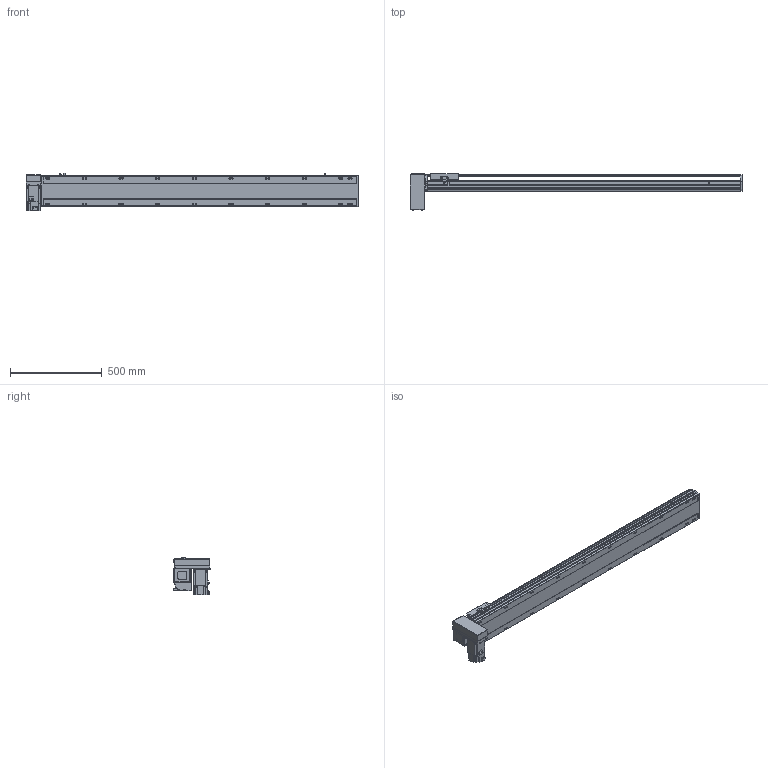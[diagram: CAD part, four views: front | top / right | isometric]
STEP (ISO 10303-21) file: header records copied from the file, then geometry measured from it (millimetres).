
FILE_DESCRIPTION( ( 'STEP AP214' ), '1' );
FILE_NAME( 'x:/temp/worker_5/temp/exporttempdir_3988_34_F8Rsa/format_0/PBS170-P40-S1450-RD-T75-C1-N(0).stp', '2022-06-08T05:36:08', ( 'License CC BY-ND 4.0' ), ( 'CADENAS' ), ' ', 'PARTsolutions', ' ' );
FILE_SCHEMA( ( 'AUTOMOTIVE_DESIGN { 1 0 10303 214 1 1 1 1 }' ) );
Length unit declared in the file: millimetre
Products named in the file (7): PBS170-P40-S1450-RD-T75-C1-N(0); _PBS170-S1450()_body; _PBS170T-RD_motors; _T75-p1; _PBS170_sliser; _PBS170_plant; _PBS170_sensor
Assembly tree (8 placements, depth 2):
  PBS170-P40-S1450-RD-T75-C1-N(0)
    _PBS170-S1450()_body
    _PBS170T-RD_motors
    _T75-p1
    _PBS170_sliser
    _PBS170_plant
    _PBS170_sensor  x3
Bounding box: 1813 x 201 x 205.3 mm (x, y, z)
Volume: 14194067.4 mm3; surface area: 1828093.7 mm2
Topology: 8 solids, 8 shells, 1114 faces, 2955 edges, 1926 vertices
Faces by surface type: plane 699, cylinder 355, cone 50, sphere 8, torus 2
Full cylindrical faces by diameter (mm): 3.242 x4, 4 x2, 4.4 x4, 4.5 x6, 4.917 x4, 6 x9, 6.647 x28, 7 x2, 7.5 x4, 8 x8, 8.5 x20, 10 x4, 10.5 x20, 11 x2, 30 x2, 40 x1, 70 x1
Entity records: 41024 total; most frequent: CARTESIAN_POINT 6557, DIRECTION 5440, ORIENTED_EDGE 5148, EDGE_CURVE 2574, AXIS2_PLACEMENT_3D 1897, VERTEX_POINT 1778, LINE 1646, VECTOR 1646
